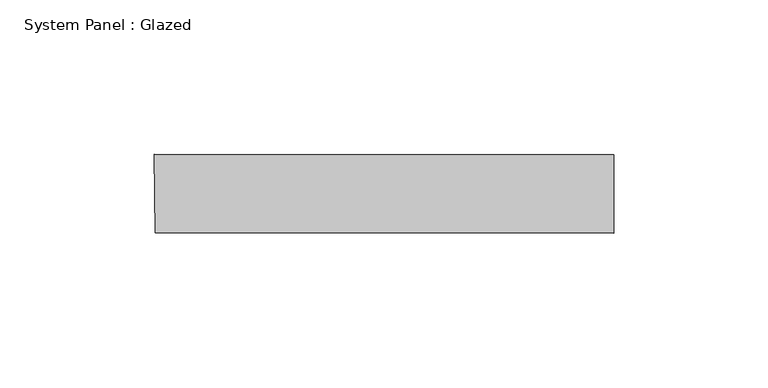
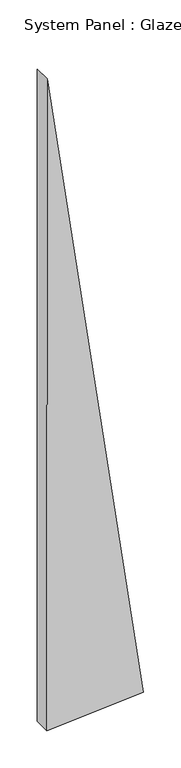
"""IFC4 building model written with IfcOpenShell, lengths in millimetres: plate geometry, System Panel : Glazed."""

import ifcopenshell
import ifcopenshell.guid

model = None  # the IFC model being written
_history = None  # IfcOwnerHistory: only IFC2X3 demands one
_inside = {}  # id of a spatial element -> (the spatial element, [elements in it])
_under = {}  # id of a project, library or spatial element -> (it, [spatial elements below it])
_declared = {}  # id of a project -> (the project, [libraries it declares])
_typed = {}  # id of a type object -> (the type object, [elements of that type])
_made_of = {}  # id of a material, layer set ... -> (it, [elements and type objects made of it])


def new_model(schema):
    """Start an empty IFC model of exactly this schema.

    Asked for "IFC4X3", IfcOpenShell would pick the latest addendum, in which some entities
    have other attributes; the version numbers below select the first issue.
    IFC2X3 requires an IfcOwnerHistory on every rooted entity: one is made here for all.
    """
    global model, _history
    if schema == "IFC4X3":
        model = ifcopenshell.file(schema_version=(4, 3, 0, 0))
    else:
        model = ifcopenshell.file(schema=schema)
    _inside.clear()
    _under.clear()
    _declared.clear()
    _typed.clear()
    _made_of.clear()
    _history = None
    if model.schema == "IFC2X3":
        org = make("IfcOrganization", Name="unknown")
        user = make(
            "IfcPersonAndOrganization",
            ThePerson=make("IfcPerson", FamilyName="unknown"),
            TheOrganization=org,
        )
        app = make(
            "IfcApplication",
            ApplicationDeveloper=org,
            Version="unknown",
            ApplicationFullName="unknown",
            ApplicationIdentifier="unknown",
        )
        _history = make(
            "IfcOwnerHistory",
            OwningUser=user,
            OwningApplication=app,
            ChangeAction="ADDED",
            CreationDate=0,
        )
    return model


def make(cls, **values):
    """One entity of the class cls with the attributes given. An attribute that is None is left unset."""
    return model.create_entity(
        cls, **{name: value for name, value in values.items() if value is not None}
    )


def rooted(cls, **values):
    """An entity with a GlobalId (a new one), such as an element, a storey or a relation."""
    return make(cls, GlobalId=ifcopenshell.guid.new(), OwnerHistory=_history, **values)


def si_unit(unit_type, name, prefix=None):
    """IfcSIUnit, for example si_unit("LENGTHUNIT", "METRE", prefix="MILLI")."""
    return make("IfcSIUnit", UnitType=unit_type, Prefix=prefix, Name=name)


def assignment(units):
    """IfcUnitAssignment: the units of a project."""
    return None if units is None else make("IfcUnitAssignment", Units=units)


def point(xyz):
    """IfcCartesianPoint."""
    return None if xyz is None else make("IfcCartesianPoint", Coordinates=xyz)


def direction(xyz):
    """IfcDirection."""
    return None if xyz is None else make("IfcDirection", DirectionRatios=xyz)


def frame(location, z_axis=None, x_axis=None):
    """IfcAxis2Placement3D, a coordinate frame: its origin and axes. An axis left out is left unset."""
    return make(
        "IfcAxis2Placement3D",
        Location=point(location),
        Axis=direction(z_axis),
        RefDirection=direction(x_axis),
    )


def origin():
    """The frame at (0, 0, 0) with its axes left unset."""
    return frame((0.0, 0.0, 0.0))


def place(relative_to, where):
    """IfcLocalPlacement: puts the frame where relative to a parent placement (None: the world)."""
    return make(
        "IfcLocalPlacement", PlacementRelTo=relative_to, RelativePlacement=where
    )


def context(
    kind, dimensions, precision=None, world=None, true_north=None, identifier=None
):
    """IfcGeometricRepresentationContext, for example the 3D "Model" context."""
    return make(
        "IfcGeometricRepresentationContext",
        ContextIdentifier=identifier,
        ContextType=kind,
        CoordinateSpaceDimension=dimensions,
        Precision=precision,
        WorldCoordinateSystem=world,
        TrueNorth=true_north,
    )


def project(units=None, contexts=None):
    """IfcProject with its units and contexts."""
    return rooted(
        "IfcProject",
        Name="project",
        RepresentationContexts=contexts,
        UnitsInContext=assignment(units),
    )


def spatial(cls, under=None, at=None, **own):
    """A site, building, storey or space (cls), placed at a placement, below another one or the project."""
    s = rooted(cls, ObjectPlacement=at, **own)
    if under is not None:
        _under.setdefault(under.id(), (under, []))[1].append(s)
    return s


def faces_of(points, faces, orient=None, outer=None):
    """IfcFace entities. A face is a list of loops; a loop is a list of indices into points, from 0.

    orient and outer hold one flag for each loop. By default every Orientation is true, the
    first loop of a face is its IfcFaceOuterBound and the others are IfcFaceBound.
    """
    made = []
    for i, loops in enumerate(faces):
        bounds = []
        for j, loop in enumerate(loops):
            is_outer = j == 0 if outer is None else outer[i][j]
            bounds.append(
                make(
                    "IfcFaceOuterBound" if is_outer else "IfcFaceBound",
                    Bound=make("IfcPolyLoop", Polygon=[points[k] for k in loop]),
                    Orientation=True if orient is None else orient[i][j],
                )
            )
        made.append(make("IfcFace", Bounds=bounds))
    return made


def faceted_brep(points, faces, orient=None, outer=None, voids=None):
    """IfcFacetedBrep: a solid bounded by flat faces; with voids (closed shells), ...WithVoids."""
    shared = [point(p) for p in points]
    hull = make("IfcClosedShell", CfsFaces=faces_of(shared, faces, orient, outer))
    if voids is None:
        return make("IfcFacetedBrep", Outer=hull)
    return make(
        "IfcFacetedBrepWithVoids",
        Outer=hull,
        Voids=[
            make(cls, CfsFaces=faces_of(shared, fs, o, b)) for cls, fs, o, b in voids
        ],
    )


def shape(context_of_items, identifier, shape_type, items):
    """IfcShapeRepresentation: the items that make up one representation, for example the "Body"."""
    return make(
        "IfcShapeRepresentation",
        ContextOfItems=context_of_items,
        RepresentationIdentifier=identifier,
        RepresentationType=shape_type,
        Items=items,
    )


def source(mapping_origin, context_of_items, identifier, shape_type, items):
    """IfcRepresentationMap: a shape defined once, which mapped items show again and again."""
    return make(
        "IfcRepresentationMap",
        MappingOrigin=mapping_origin,
        MappedRepresentation=shape(context_of_items, identifier, shape_type, items),
    )


def transform(
    local_origin,
    x_axis=None,
    y_axis=None,
    z_axis=None,
    scale=None,
    scale2=None,
    scale3=None,
    uniform=True,
):
    """IfcCartesianTransformationOperator3D, or its non-uniform kind. x_axis, y_axis, z_axis: its Axis1, 2, 3."""
    if uniform:
        return make(
            "IfcCartesianTransformationOperator3D",
            Axis1=direction(x_axis),
            Axis2=direction(y_axis),
            LocalOrigin=point(local_origin),
            Scale=scale,
            Axis3=direction(z_axis),
        )
    return make(
        "IfcCartesianTransformationOperator3DnonUniform",
        Axis1=direction(x_axis),
        Axis2=direction(y_axis),
        LocalOrigin=point(local_origin),
        Scale=scale,
        Axis3=direction(z_axis),
        Scale2=scale2,
        Scale3=scale3,
    )


def mapped(mapping_source, mapping_target):
    """IfcMappedItem: shows the shape of a source again, moved by a transform."""
    return make(
        "IfcMappedItem", MappingSource=mapping_source, MappingTarget=mapping_target
    )


def made_of(thing, what):
    """Note that an element or type object is made of a material, layer set ...; save() writes the relation."""
    if what is not None:
        _made_of.setdefault(what.id(), (what, []))[1].append(thing)
    return thing


def element(
    cls,
    number,
    at=None,
    inside=None,
    cuts=None,
    type_object=None,
    material=None,
    context=None,
    identifier="Body",
    shape_type=None,
    held_by="IfcProductDefinitionShape",
    body=None,
    shapes=None,
    **own,
):
    """One element of the class cls, such as IfcWall. Its Tag is "e" and its number.

    at: its placement. inside: the storey or other place that contains it. cuts: it is an
    opening in that element (IfcRelVoidsElement). A single representation is given by context,
    identifier, shape_type and body (its items); several are given by shapes. held_by: the class
    of the entity that holds the representations. save() writes the other relations.
    """
    e = rooted(cls, Tag="e%d" % number, ObjectPlacement=at, **own)
    if body is not None:
        shapes = [shape(context, identifier, shape_type, body)]
    if shapes is not None:
        e.Representation = make(held_by, Representations=shapes)
    if inside is not None:
        _inside.setdefault(inside.id(), (inside, []))[1].append(e)
    if cuts is not None:
        rooted(
            "IfcRelVoidsElement", RelatingBuildingElement=cuts, RelatedOpeningElement=e
        )
    if type_object is not None:
        _typed.setdefault(type_object.id(), (type_object, []))[1].append(e)
    return made_of(e, material)


def aggregate(whole, parts):
    """IfcRelAggregates: a whole, such as a stair, and the parts it consists of."""
    return rooted("IfcRelAggregates", RelatingObject=whole, RelatedObjects=parts)


def save(model, path):
    """Write the relations noted so far, then the file.

    IfcRelAggregates (storeys below a building ...), IfcRelContainedInSpatialStructure (elements
    in a storey), IfcRelDefinesByType, IfcRelAssociatesMaterial and IfcRelDeclares: one each for
    every whole, place, type object, material and project.
    """
    for whole, parts in _under.values():
        aggregate(whole, parts)
    for where, things in _inside.values():
        rooted(
            "IfcRelContainedInSpatialStructure",
            RelatedElements=things,
            RelatingStructure=where,
        )
    for kind, things in _typed.values():
        rooted("IfcRelDefinesByType", RelatedObjects=things, RelatingType=kind)
    for what, things in _made_of.values():
        rooted("IfcRelAssociatesMaterial", RelatedObjects=things, RelatingMaterial=what)
    for by, libraries in _declared.values():
        rooted("IfcRelDeclares", RelatingContext=by, RelatedDefinitions=libraries)
    model.write(path)


def system_panel_glazed_7ac646d2(model_context):
    return source(origin(), model_context, "Body", "Brep", [
        faceted_brep([(-74.4419444, -44.45, 0.0), (74.4433101, -44.45, 10.4404869), (-74.0874565, -44.45, 1064.2946498), (-74.4419444, -19.05, 0.0), (-74.4433101, -19.05, 1064.2696958), (74.4433101, -19.05, 10.4404869)], [[[0, 1, 2]], [[3, 4, 5]], [[1, 0, 3, 5]], [[2, 1, 5, 4]], [[0, 2, 4, 3]]]),
    ])


if __name__ == "__main__":
    model = new_model("IFC4")
    model_context = context("Model", 3, world=origin())
    ifc_project = project(units=[si_unit("LENGTHUNIT", "METRE", prefix="MILLI")], contexts=[model_context])
    site = spatial("IfcSite", under=ifc_project)
    building = spatial("IfcBuilding", under=site)
    placement = place(None, origin())
    system_panel_glazed_shape = system_panel_glazed_7ac646d2(model_context)
    element("IfcPlate", 1, ObjectType="System Panel : Glazed", at=placement, inside=building, context=model_context, shape_type="MappedRepresentation", body=[
        mapped(system_panel_glazed_shape, transform((0.0, 0.0, 0.0), x_axis=(1.0, 0.0, 0.0), y_axis=(0.0, 1.0, 0.0), z_axis=(0.0, 0.0, 1.0))),
    ])
    save(model, "model.ifc")
